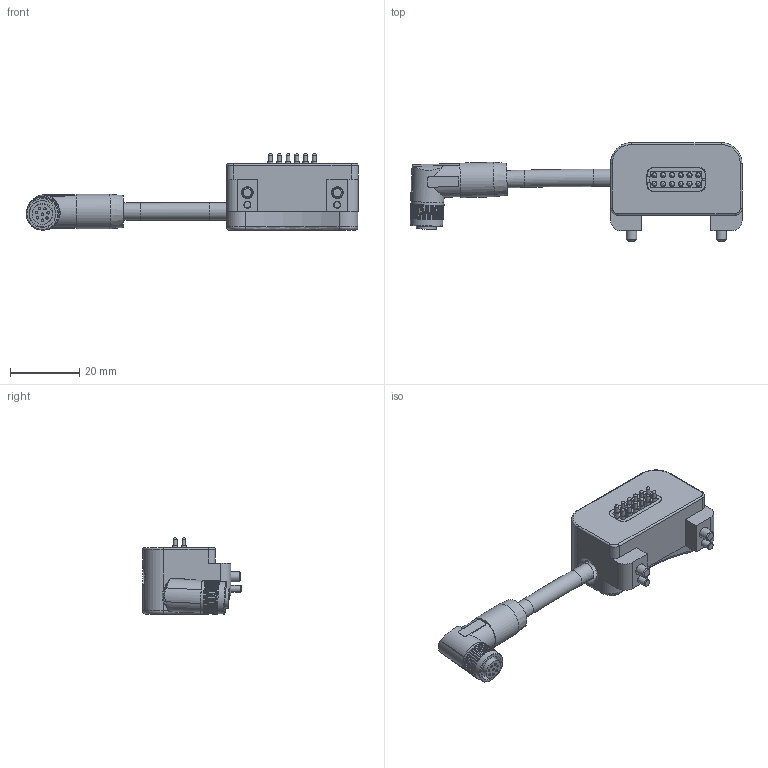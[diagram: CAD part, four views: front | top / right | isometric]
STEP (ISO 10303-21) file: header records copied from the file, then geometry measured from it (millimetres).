
FILE_DESCRIPTION(/* description */ (''),/* implementation_level */ '2;1');
FILE_NAME(/* name */ 'G-SEK100-U-1FE12-40-M8-BW.stp',/* time_stamp */ '2025-01-08T13:16:04+01:00',/* author */ ('vbednarz'),/* organization */ (''),/* preprocessor_version */ 'ST-DEVELOPER v20',/* originating_system */ 'Autodesk Inventor 2024',/* authorisation */ '');
FILE_SCHEMA (('AUTOMOTIVE_DESIGN { 1 0 10303 214 3 1 1 }'));
Length unit declared in the file: millimetre
Products named in the file (1): G-SEK100-U-1FE12-40-M8-BW
Bounding box: 96.04 x 28.5 x 22.24 mm (x, y, z)
Volume: 16052.9 mm3; surface area: 11505.6 mm2
Topology: 6 solids, 6 shells, 792 faces, 1930 edges, 1275 vertices
Faces by surface type: plane 427, cylinder 303, cone 28, torus 20, bspline 14
Full cylindrical faces by diameter (mm): 0.7 x8, 0.97 x12, 1.07 x12, 1.5 x12, 1.65 x12, 1.8 x2, 1.98 x12, 2 x2, 2.02 x2, 2.05 x4, 3 x2, 3.4 x2, 4.5 x4, 5 x6, 5.5 x2, 5.8 x2, 6 x2, 7.75 x1, 9.35 x1, 10 x1
Entity records: 25115 total; most frequent: CARTESIAN_POINT 5013, DIRECTION 4179, ORIENTED_EDGE 3844, EDGE_CURVE 1922, AXIS2_PLACEMENT_3D 1569, VERTEX_POINT 1275, LINE 1041, VECTOR 1041
